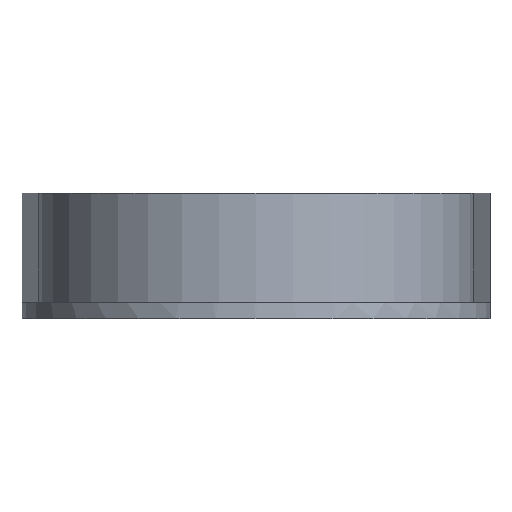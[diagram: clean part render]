
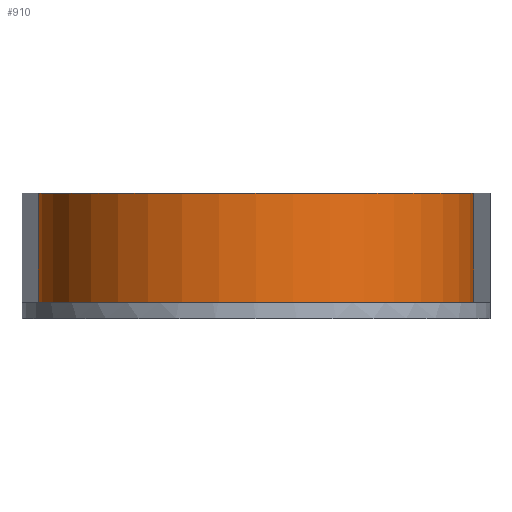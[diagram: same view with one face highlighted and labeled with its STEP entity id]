
A CAD part, left-side view. The second image highlights one B-rep face of the part: STEP entity #910.
In plain terms, the highlighted cylindrical face has radius 20 mm (diameter 40 mm), a partial arc.
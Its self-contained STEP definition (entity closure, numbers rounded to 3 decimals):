
#10 = AXIS2_PLACEMENT_3D ( 'NONE', #1014, #175, #912 ) ;
#16 = CARTESIAN_POINT ( 'NONE',  ( -0.389, 19.996, 79.2 ) ) ;
#32 = CIRCLE ( 'NONE', #861, 20. ) ;
#74 = DIRECTION ( 'NONE',  ( 0., 0., 1. ) ) ;
#159 = ORIENTED_EDGE ( 'NONE', *, *, #670, .T. ) ;
#175 = DIRECTION ( 'NONE',  ( 0., 0., 1. ) ) ;
#198 = LINE ( 'NONE', #16, #1098 ) ;
#292 = CARTESIAN_POINT ( 'NONE',  ( -0.389, -19.996, 79.2 ) ) ;
#327 = CARTESIAN_POINT ( 'NONE',  ( -0.389, -19.996, 89.2 ) ) ;
#345 = CARTESIAN_POINT ( 'NONE',  ( 0., 0., 79.2 ) ) ;
#346 = CARTESIAN_POINT ( 'NONE',  ( -0.389, -19.996, 79.2 ) ) ;
#359 = CARTESIAN_POINT ( 'NONE',  ( -0.389, 19.996, 79.2 ) ) ;
#368 = FACE_OUTER_BOUND ( 'NONE', #538, .T. ) ;
#382 = ORIENTED_EDGE ( 'NONE', *, *, #426, .T. ) ;
#421 = VERTEX_POINT ( 'NONE', #359 ) ;
#426 = EDGE_CURVE ( 'NONE', #578, #1074, #720, .T. ) ;
#517 = CARTESIAN_POINT ( 'NONE',  ( -0.389, 19.996, 89.2 ) ) ;
#532 = EDGE_CURVE ( 'NONE', #421, #1164, #198, .T. ) ;
#538 = EDGE_LOOP ( 'NONE', ( #159, #382, #666, #850 ) ) ;
#550 = DIRECTION ( 'NONE',  ( 0., 0., 1. ) ) ;
#576 = VECTOR ( 'NONE', #74, 1000. ) ;
#578 = VERTEX_POINT ( 'NONE', #292 ) ;
#604 = CIRCLE ( 'NONE', #764, 20. ) ;
#624 = DIRECTION ( 'NONE',  ( 0., 0., 1. ) ) ;
#631 = CARTESIAN_POINT ( 'NONE',  ( 0., 0., 89.2 ) ) ;
#666 = ORIENTED_EDGE ( 'NONE', *, *, #847, .T. ) ;
#670 = EDGE_CURVE ( 'NONE', #421, #578, #604, .T. ) ;
#720 = LINE ( 'NONE', #346, #576 ) ;
#736 = CYLINDRICAL_SURFACE ( 'NONE', #10, 20. ) ;
#764 = AXIS2_PLACEMENT_3D ( 'NONE', #345, #624, #1088 ) ;
#847 = EDGE_CURVE ( 'NONE', #1074, #1164, #32, .T. ) ;
#850 = ORIENTED_EDGE ( 'NONE', *, *, #532, .F. ) ;
#861 = AXIS2_PLACEMENT_3D ( 'NONE', #631, #1186, #1106 ) ;
#910 = ADVANCED_FACE ( 'NONE', ( #368 ), #736, .T. ) ;
#912 = DIRECTION ( 'NONE',  ( -0.019, 1., 0. ) ) ;
#1014 = CARTESIAN_POINT ( 'NONE',  ( 0., 0., 79.2 ) ) ;
#1074 = VERTEX_POINT ( 'NONE', #327 ) ;
#1088 = DIRECTION ( 'NONE',  ( -0.019, 1., 0. ) ) ;
#1098 = VECTOR ( 'NONE', #550, 1000. ) ;
#1106 = DIRECTION ( 'NONE',  ( -0.019, 1., 0. ) ) ;
#1164 = VERTEX_POINT ( 'NONE', #517 ) ;
#1186 = DIRECTION ( 'NONE',  ( 0., 0., -1. ) ) ;
